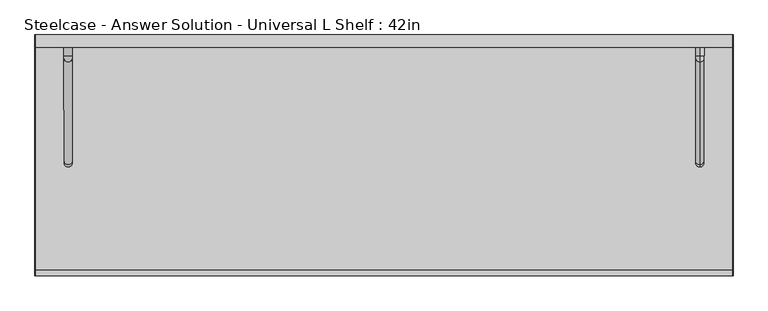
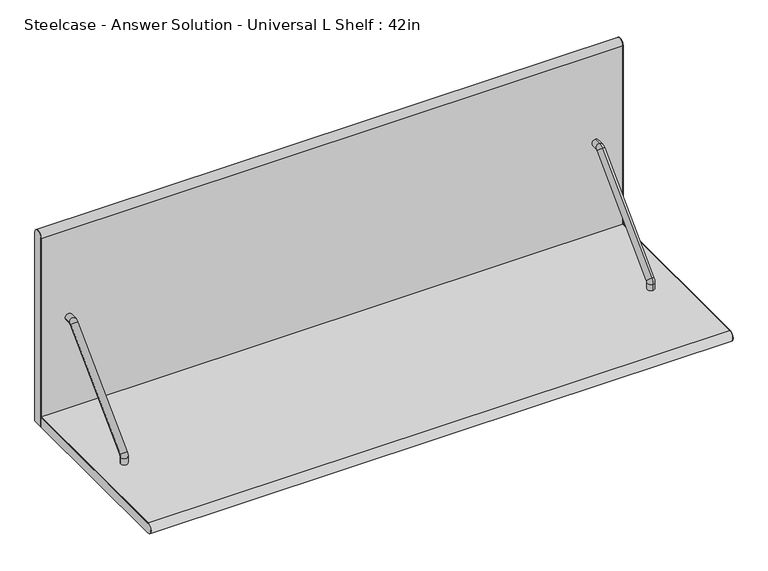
"""IFC4 building model written with IfcOpenShell, lengths in millimetres: furniture geometry, Steelcase - Answer Solution - Universal L Shelf : 42in."""

from ifc_helpers import new_model, si_unit, point, frame, frame_2d, origin, place, context, project, spatial, polyline, circle_curve, ellipse_curve, trimmed, segment, composite_curve, outline, extrude, source, transform, mapped, element, save
from ifc_brep_helpers import plane_surface, cylinder_surface, revolved_surface, advanced_brep


def steelcase_answer_solution_universal_l_shelf_42in_212a6dae(model_context):
    return source(origin(), model_context, "Body", "SolidModel", [
        advanced_brep(
        [(1016.0, -19.05, 1474.7549677), (1016.0, -19.05, 1487.4549677), (1016.0, -31.5185531, 1474.7549677), (1016.0, -31.5185531, 1487.4549677), (1016.0, -40.9494499, 1483.5485623), (1016.0, -31.9691938, 1474.5683062), (1016.0, -188.7383749, 1317.7991251), (1016.0, -197.718631, 1326.7793812), (1016.0, -201.6125, 1317.3787499), (1016.0, -188.9125, 1317.3787499), (1016.0, -188.9125, 1304.925), (1016.0, -201.6125, 1304.925)],
        [
            (0, 1, circle_curve(frame((1016.0, -19.05, 1481.1049677), z_axis=(0.0, 1.0, 0.0), x_axis=(0.0, 0.0, 1.0)), 6.35)),
            (1, 0, circle_curve(frame((1016.0, -19.05, 1481.1049677), z_axis=(0.0, 1.0, 0.0), x_axis=(0.0, 0.0, 1.0)), 6.35)),
            (0, 2),
            (2, 3, circle_curve(frame((1016.0, -31.5185531, 1481.1049677), z_axis=(0.0, 1.0, 0.0), x_axis=(0.0, 0.0, 1.0)), 6.35)),
            (3, 1),
            (3, 2, circle_curve(frame((1016.0, -31.5185531, 1481.1049677), z_axis=(0.0, 1.0, 0.0), x_axis=(0.0, 0.0, 1.0)), 6.35)),
            (4, 3, circle_curve(frame((1016.0, -31.5185531, 1474.1176655), z_axis=(-1.0, 0.0, 0.0), x_axis=(0.0, 0.0, 1.0)), 13.3373022)),
            (2, 5, circle_curve(frame((1016.0, -31.5185531, 1474.1176655), z_axis=(1.0, 0.0, 0.0), x_axis=(0.0, 0.0, 1.0)), 0.6373022)),
            (5, 4, circle_curve(frame((1016.0, -36.4593219, 1479.0584342), z_axis=(0.0, 0.7071067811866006, 0.7071067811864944), x_axis=(0.0, -0.7071067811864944, 0.7071067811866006)), 6.35)),
            (4, 5, circle_curve(frame((1016.0, -36.4593219, 1479.0584342), z_axis=(0.0, 0.7071067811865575, 0.7071067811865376), x_axis=(0.0, -0.7071067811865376, 0.7071067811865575)), 6.35)),
            (5, 6),
            (6, 7, circle_curve(frame((1016.0, -193.228503, 1322.2892532), z_axis=(0.0, 0.7071067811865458, 0.7071067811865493), x_axis=(0.0, -0.7071067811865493, 0.7071067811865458)), 6.35)),
            (7, 4),
            (7, 6, circle_curve(frame((1016.0, -193.228503, 1322.2892532), z_axis=(0.0, 0.7071067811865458, 0.7071067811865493), x_axis=(0.0, -0.7071067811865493, 0.7071067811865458)), 6.35)),
            (8, 7, circle_curve(frame((1016.0, -188.3179998, 1317.3787499), z_axis=(-1.0, 0.0, 0.0), x_axis=(0.0, -0.7071067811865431, 0.7071067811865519)), 13.2945002)),
            (6, 9, circle_curve(frame((1016.0, -188.3179998, 1317.3787499), z_axis=(1.0, 0.0, 0.0), x_axis=(0.0, -0.7071067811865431, 0.7071067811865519)), 0.5945002)),
            (9, 8, circle_curve(frame((1016.0, -195.2625, 1317.3787499), z_axis=(0.0, 0.0, 1.0), x_axis=(0.0, -1.0, 0.0)), 6.35)),
            (8, 9, circle_curve(frame((1016.0, -195.2625, 1317.3787499), z_axis=(0.0, 0.0, 1.0), x_axis=(0.0, -1.0, 0.0)), 6.35)),
            (10, 11, circle_curve(frame((1016.0, -195.2625, 1304.925), z_axis=(0.0, 0.0, -1.0), x_axis=(0.0, -1.0, 0.0)), 6.35)),
            (11, 10, circle_curve(frame((1016.0, -195.2625, 1304.925), z_axis=(0.0, 0.0, -1.0), x_axis=(0.0, -1.0, 0.0)), 6.35)),
            (9, 10),
            (11, 8),
        ],
        [
            plane_surface(frame((1016.0, -19.05, 1481.1049677), z_axis=(0.0, 1.0, 0.0), x_axis=(-1.0, 0.0, 0.0))),
            cylinder_surface(frame((1016.0, -19.05, 1481.1049677), z_axis=(0.0, 1.0, 0.0), x_axis=(0.0, 0.0, 1.0)), 6.35),
            revolved_surface(trimmed(ellipse_curve(frame((1016.0, -31.5185531, 1481.1049677), z_axis=(0.0, 1.0, 0.0), x_axis=(0.0, 0.0, 1.0)), 6.35, 6.35), [point((1016.0, -31.5185531, 1474.7549677))], [point((1016.0, -31.5185531, 1487.4549677))], True, "CARTESIAN"), (1016.0, -31.5185531, 1474.1176655), (1.0, 0.0, 0.0)),
            revolved_surface(trimmed(ellipse_curve(frame((1016.0, -31.5185531, 1481.1049677), z_axis=(0.0, 1.0, 0.0), x_axis=(0.0, 0.0, 1.0)), 6.35, 6.35), [point((1016.0, -31.5185531, 1487.4549677))], [point((1016.0, -31.5185531, 1474.7549677))], True, "CARTESIAN"), (1016.0, -31.5185531, 1474.1176655), (1.0, 0.0, 0.0)),
            cylinder_surface(frame((1016.0, -36.4593219, 1479.0584342), z_axis=(0.0, 0.7071067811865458, 0.7071067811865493), x_axis=(0.0, -0.7071067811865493, 0.7071067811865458)), 6.35),
            revolved_surface(trimmed(ellipse_curve(frame((1016.0, -193.228503, 1322.2892532), z_axis=(0.0, 0.7071067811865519, 0.7071067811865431), x_axis=(0.0, -0.7071067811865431, 0.7071067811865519)), 6.35, 6.35), [point((1016.0, -188.7383749, 1317.7991251))], [point((1016.0, -197.718631, 1326.7793812))], True, "CARTESIAN"), (1016.0, -188.3179998, 1317.3787499), (1.0, 0.0, 0.0)),
            revolved_surface(trimmed(ellipse_curve(frame((1016.0, -193.228503, 1322.2892532), z_axis=(0.0, 0.7071067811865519, 0.7071067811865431), x_axis=(0.0, -0.7071067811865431, 0.7071067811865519)), 6.35, 6.35), [point((1016.0, -197.718631, 1326.7793812))], [point((1016.0, -188.7383749, 1317.7991251))], True, "CARTESIAN"), (1016.0, -188.3179998, 1317.3787499), (1.0, 0.0, 0.0)),
            plane_surface(frame((1016.0, -195.2625, 1304.925), z_axis=(0.0, 0.0, -1.0), x_axis=(-1.0, 0.0, 0.0))),
            cylinder_surface(frame((1016.0, -195.2625, 1317.3787499), z_axis=(0.0, 0.0, 1.0), x_axis=(0.0, -1.0, 0.0)), 6.35),
        ],
        [
            (0, [[1, 2]]),
            (1, [[-1, 3, 4, 5]]),
            (1, [[-2, -5, 6, -3]]),
            (2, [[7, -4, 8, 9]]),
            (3, [[-8, -6, -7, 10]]),
            (4, [[-9, 11, 12, 13]]),
            (4, [[-10, -13, 14, -11]]),
            (5, [[15, -12, 16, 17]]),
            (6, [[-16, -14, -15, 18]]),
            (7, [[19, 20]]),
            (8, [[-17, 21, -20, 22]]),
            (8, [[-18, -22, -19, -21]]),
        ],
    ),
        advanced_brep(
        [(44.45, -19.05, 1481.1049677), (57.15, -19.05, 1481.1049677), (44.45, -31.5185531, 1481.1049677), (57.15, -31.5185531, 1481.1049677), (57.15, -36.4593219, 1479.0584342), (44.45, -36.4593219, 1479.0584342), (44.45, -193.228503, 1322.2892532), (57.15, -193.228503, 1322.2892532), (57.15, -195.2625, 1317.3787499), (44.45, -195.2625, 1317.3787499), (44.45, -195.2625, 1304.925), (57.15, -195.2625, 1304.925)],
        [
            (0, 1, circle_curve(frame((50.8, -19.05, 1481.1049677), z_axis=(0.0, 1.0, 0.0), x_axis=(1.0, 0.0, 0.0)), 6.35)),
            (1, 0, circle_curve(frame((50.8, -19.05, 1481.1049677), z_axis=(0.0, 1.0, 0.0), x_axis=(1.0, 0.0, 0.0)), 6.35)),
            (0, 2),
            (2, 3, circle_curve(frame((50.8, -31.5185531, 1481.1049677), z_axis=(0.0, 1.0, 0.0), x_axis=(1.0, 0.0, 0.0)), 6.35)),
            (3, 1),
            (3, 2, circle_curve(frame((50.8, -31.5185531, 1481.1049677), z_axis=(0.0, 1.0, 0.0), x_axis=(1.0, 0.0, 0.0)), 6.35)),
            (4, 3, circle_curve(frame((57.15, -31.5185531, 1474.1176655), z_axis=(-1.0, 0.0, 0.0), x_axis=(0.0, 0.0, 1.0)), 6.9873022)),
            (2, 5, circle_curve(frame((44.45, -31.5185531, 1474.1176655), z_axis=(1.0, 0.0, 0.0), x_axis=(0.0, 0.0, 1.0)), 6.9873022)),
            (5, 4, circle_curve(frame((50.8, -36.4593219, 1479.0584342), z_axis=(0.0, 0.7071067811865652, 0.7071067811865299), x_axis=(1.0, 0.0, 0.0)), 6.35)),
            (4, 5, circle_curve(frame((50.8, -36.4593219, 1479.0584342), z_axis=(0.0, 0.7071067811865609, 0.7071067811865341), x_axis=(1.0, 0.0, 0.0)), 6.35)),
            (5, 6),
            (6, 7, circle_curve(frame((50.8, -193.228503, 1322.2892532), z_axis=(0.0, 0.7071067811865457, 0.7071067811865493), x_axis=(1.0, 0.0, 0.0)), 6.35)),
            (7, 4),
            (7, 6, circle_curve(frame((50.8, -193.228503, 1322.2892532), z_axis=(0.0, 0.7071067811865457, 0.7071067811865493), x_axis=(1.0, 0.0, 0.0)), 6.35)),
            (8, 7, circle_curve(frame((57.15, -188.3179998, 1317.3787499), z_axis=(-1.0, 0.0, 0.0), x_axis=(0.0, -0.7071067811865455, 0.7071067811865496)), 6.9445002)),
            (6, 9, circle_curve(frame((44.45, -188.3179998, 1317.3787499), z_axis=(1.0, 0.0, 0.0), x_axis=(0.0, -0.7071067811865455, 0.7071067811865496)), 6.9445002)),
            (9, 8, circle_curve(frame((50.8, -195.2625, 1317.3787499), z_axis=(0.0, 0.0, 1.0), x_axis=(1.0, 0.0, 0.0)), 6.35)),
            (8, 9, circle_curve(frame((50.8, -195.2625, 1317.3787499), z_axis=(0.0, 0.0, 1.0), x_axis=(1.0, 0.0, 0.0)), 6.35)),
            (10, 11, circle_curve(frame((50.8, -195.2625, 1304.925), z_axis=(0.0, 0.0, -1.0), x_axis=(1.0, 0.0, 0.0)), 6.35)),
            (11, 10, circle_curve(frame((50.8, -195.2625, 1304.925), z_axis=(0.0, 0.0, -1.0), x_axis=(1.0, 0.0, 0.0)), 6.35)),
            (9, 10),
            (11, 8),
        ],
        [
            plane_surface(frame((50.8, -19.05, 1481.1049677), z_axis=(0.0, 1.0, 0.0), x_axis=(-1.0, 0.0, 0.0))),
            cylinder_surface(frame((50.8, -19.05, 1481.1049677), z_axis=(0.0, 1.0, 0.0), x_axis=(1.0, 0.0, 0.0)), 6.35),
            revolved_surface(trimmed(ellipse_curve(frame((50.8, -31.5185531, 1481.1049677), z_axis=(0.0, 1.0, 0.0), x_axis=(1.0, 0.0, 0.0)), 6.35, 6.35), [point((44.45, -31.5185531, 1481.1049677))], [point((57.15, -31.5185531, 1481.1049677))], True, "CARTESIAN"), (50.8, -31.5185531, 1474.1176655), (1.0, 0.0, 0.0)),
            revolved_surface(trimmed(ellipse_curve(frame((50.8, -31.5185531, 1481.1049677), z_axis=(0.0, 1.0, 0.0), x_axis=(1.0, 0.0, 0.0)), 6.35, 6.35), [point((57.15, -31.5185531, 1481.1049677))], [point((44.45, -31.5185531, 1481.1049677))], True, "CARTESIAN"), (50.8, -31.5185531, 1474.1176655), (1.0, 0.0, 0.0)),
            cylinder_surface(frame((50.8, -36.4593219, 1479.0584342), z_axis=(0.0, 0.7071067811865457, 0.7071067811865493), x_axis=(1.0, 0.0, 0.0)), 6.35),
            revolved_surface(trimmed(ellipse_curve(frame((50.8, -193.228503, 1322.2892532), z_axis=(0.0, 0.7071067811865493, 0.7071067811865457), x_axis=(1.0, 0.0, 0.0)), 6.35, 6.35), [point((44.45, -193.228503, 1322.2892532))], [point((57.15, -193.228503, 1322.2892532))], True, "CARTESIAN"), (50.8, -188.3179998, 1317.3787499), (1.0, 0.0, 0.0)),
            revolved_surface(trimmed(ellipse_curve(frame((50.8, -193.228503, 1322.2892532), z_axis=(0.0, 0.7071067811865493, 0.7071067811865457), x_axis=(1.0, 0.0, 0.0)), 6.35, 6.35), [point((57.15, -193.228503, 1322.2892532))], [point((44.45, -193.228503, 1322.2892532))], True, "CARTESIAN"), (50.8, -188.3179998, 1317.3787499), (1.0, 0.0, 0.0)),
            plane_surface(frame((50.8, -195.2625, 1304.925), z_axis=(0.0, 0.0, -1.0), x_axis=(-1.0, 0.0, 0.0))),
            cylinder_surface(frame((50.8, -195.2625, 1317.3787499), z_axis=(0.0, 0.0, 1.0), x_axis=(1.0, 0.0, 0.0)), 6.35),
        ],
        [
            (0, [[1, 2]]),
            (1, [[-1, 3, 4, 5]]),
            (1, [[-2, -5, 6, -3]]),
            (2, [[7, -4, 8, 9]]),
            (3, [[-8, -6, -7, 10]]),
            (4, [[-9, 11, 12, 13]]),
            (4, [[-10, -13, 14, -11]]),
            (5, [[15, -12, 16, 17]]),
            (6, [[-16, -14, -15, 18]]),
            (7, [[19, 20]]),
            (8, [[-17, 21, -20, 22]]),
            (8, [[-18, -22, -19, -21]]),
        ],
    ),
        extrude(outline(composite_curve([segment(polyline([(-358.7557809, 1304.925), (-19.05, 1304.925), (-19.05, 1285.875), (-358.7557809, 1285.875)]), True, "CONTINUOUS"), segment(trimmed(circle_curve(frame_2d((-358.7557809, 1295.4)), 9.525), [point((-358.7557809, 1285.875))], [point((-358.7557809, 1304.925))], False, "CARTESIAN"), True, "CONTINUOUS")], self_intersect=False)), frame((1066.599975, 0.0, 0.0), z_axis=(1.0, 0.0, 0.0), x_axis=(0.0, 1.0, 0.0)), (0.0, 0.0, 1.0), 0.200025),
        extrude(outline(composite_curve([segment(trimmed(circle_curve(frame_2d((-9.525, 1650.9853521)), 9.525), [point((-19.05, 1650.9853521))], [point((0.0, 1650.9853521))], False, "CARTESIAN"), True, "CONTINUOUS"), segment(polyline([(0.0, 1650.9853521), (0.0, 1285.875), (-19.05, 1285.875), (-19.05, 1650.9853521)]), True, "CONTINUOUS")], self_intersect=False)), frame((1066.599975, 0.0, 0.0), z_axis=(1.0, 0.0, 0.0), x_axis=(0.0, 1.0, 0.0)), (0.0, 0.0, 1.0), 0.200025),
        extrude(outline(composite_curve([segment(polyline([(-358.7557809, 1304.925), (-19.05, 1304.925), (-19.05, 1285.875), (-358.7557809, 1285.875)]), True, "CONTINUOUS"), segment(trimmed(circle_curve(frame_2d((-358.7557809, 1295.4)), 9.525), [point((-358.7557809, 1285.875))], [point((-358.7557809, 1304.925))], False, "CARTESIAN"), True, "CONTINUOUS")], self_intersect=False)), frame((0.0, 0.0, 0.0), z_axis=(1.0, 0.0, 0.0), x_axis=(0.0, 1.0, 0.0)), (0.0, 0.0, 1.0), 0.200025),
        extrude(outline(composite_curve([segment(trimmed(circle_curve(frame_2d((-9.525, 1650.9853521)), 9.525), [point((-19.05, 1650.9853521))], [point((0.0, 1650.9853521))], False, "CARTESIAN"), True, "CONTINUOUS"), segment(polyline([(0.0, 1650.9853521), (0.0, 1285.875), (-19.05, 1285.875), (-19.05, 1650.9853521)]), True, "CONTINUOUS")], self_intersect=False)), frame((0.0, 0.0, 0.0), z_axis=(1.0, 0.0, 0.0), x_axis=(0.0, 1.0, 0.0)), (0.0, 0.0, 1.0), 0.200025),
        extrude(outline(composite_curve([segment(polyline([(0.0, 1650.9853521), (0.0, 1285.875), (-358.7557809, 1285.875)]), True, "CONTINUOUS"), segment(trimmed(circle_curve(frame_2d((-358.7557809, 1295.4)), 9.525), [point((-358.7557809, 1285.875))], [point((-358.7557809, 1304.925))], False, "CARTESIAN"), True, "CONTINUOUS"), segment(polyline([(-358.7557809, 1304.925), (-19.05, 1304.925), (-19.05, 1650.9853521)]), True, "CONTINUOUS"), segment(trimmed(circle_curve(frame_2d((-9.525, 1650.9853521)), 9.525), [point((-19.05, 1650.9853521))], [point((0.0, 1650.9853521))], False, "CARTESIAN"), True, "CONTINUOUS")], self_intersect=False)), frame((0.200025, 0.0, 0.0), z_axis=(1.0, 0.0, 0.0), x_axis=(0.0, 1.0, 0.0)), (0.0, 0.0, 1.0), 1066.39995),
    ])


if __name__ == "__main__":
    model = new_model("IFC4")
    model_context = context("Model", 3, world=origin())
    ifc_project = project(units=[si_unit("LENGTHUNIT", "METRE", prefix="MILLI")], contexts=[model_context])
    site = spatial("IfcSite", under=ifc_project)
    building = spatial("IfcBuilding", under=site)
    placement = place(None, origin())
    steelcase_answer_solution_universal_l_shelf_42in_shape = steelcase_answer_solution_universal_l_shelf_42in_212a6dae(model_context)
    element("IfcFurniture", 1, ObjectType="Steelcase - Answer Solution - Universal L Shelf : 42in", at=placement, inside=building, context=model_context, shape_type="MappedRepresentation", body=[
        mapped(steelcase_answer_solution_universal_l_shelf_42in_shape, transform((0.0, 0.0, 0.0), x_axis=(1.0, 0.0, 0.0), y_axis=(0.0, 1.0, 0.0), z_axis=(0.0, 0.0, 1.0))),
    ])
    save(model, "model.ifc")
